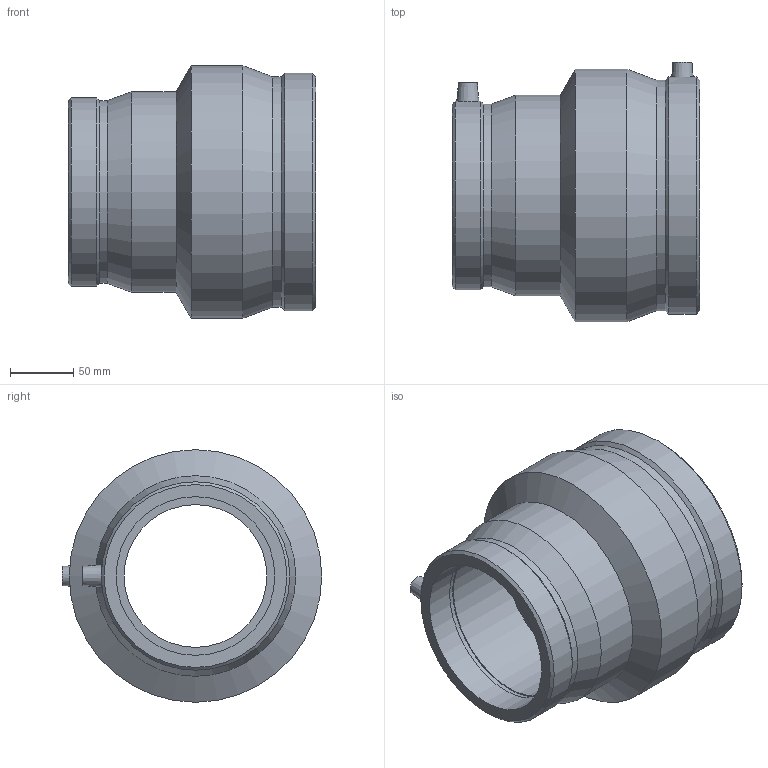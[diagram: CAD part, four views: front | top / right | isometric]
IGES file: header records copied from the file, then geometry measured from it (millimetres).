
Global section: file name: 491104160125.ipt; native system: Autodesk Inventor 2015; preprocessor: unknown; author: KIM; date: 20171106.093742; units: millimetre
Bounding box: 195 x 204.5 x 199 mm (x, y, z)
Volume: 1543326.1 mm3; surface area: 226358.7 mm2
Topology: 1 solids, 1 shells, 39 faces, 87 edges, 58 vertices
Faces by surface type: plane 12, revolution 10, cone 9, cylinder 8
Full cylindrical faces by diameter (mm): 4 x2, 144.064 x1, 148.52 x1, 158 x1, 181.448 x1, 187.06 x1, 199 x1
